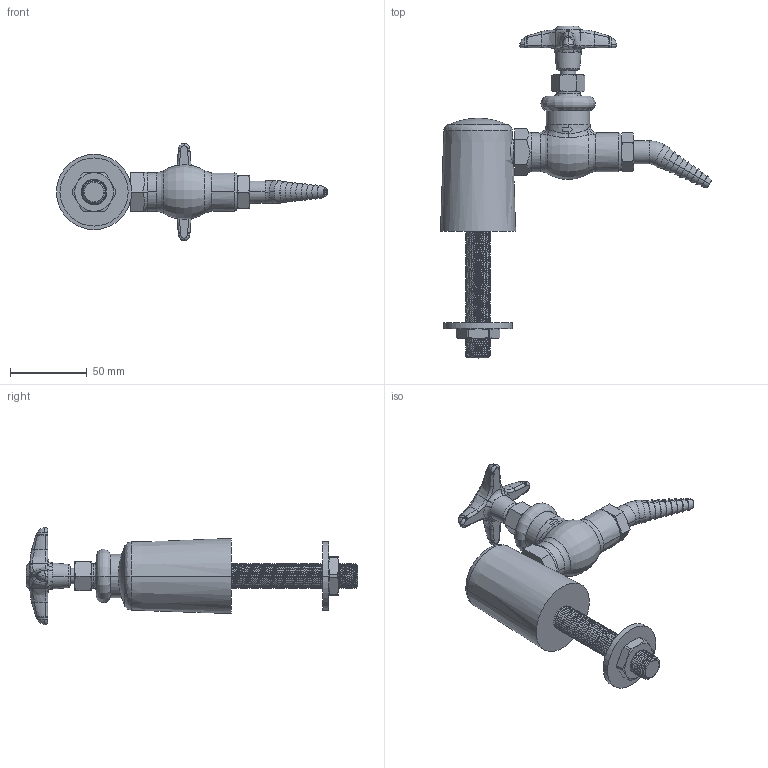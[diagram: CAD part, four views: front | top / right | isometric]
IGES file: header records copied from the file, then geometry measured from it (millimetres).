
Start section:  PTC IGES file: LGN1-A21B-10.igs
Global section: file name: LGN1-A21B-10.igs; native system: Creo Parametric by PTC Inc.; preprocessor: 2014500; author: usch_engrender; organization: Unknown; date: 20151215.092838; units: inch
Bounding box: 176.69 x 216.39 x 63.41 mm (x, y, z)
Volume: 223529.8 mm3; surface area: 46871.3 mm2
Topology: 1 solids, 7 shells, 575 faces, 1425 edges, 880 vertices
Faces by surface type: bspline 302, revolution 273
